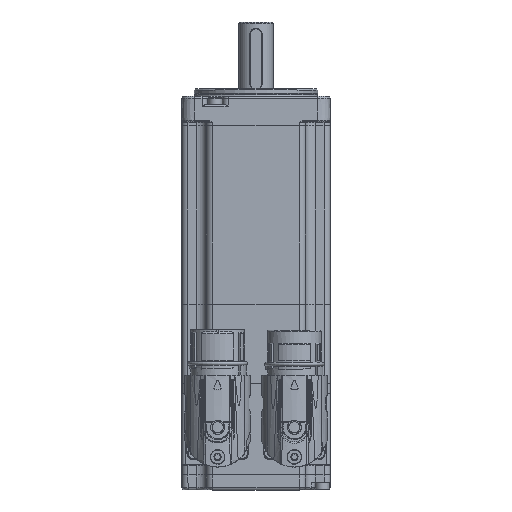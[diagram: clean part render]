
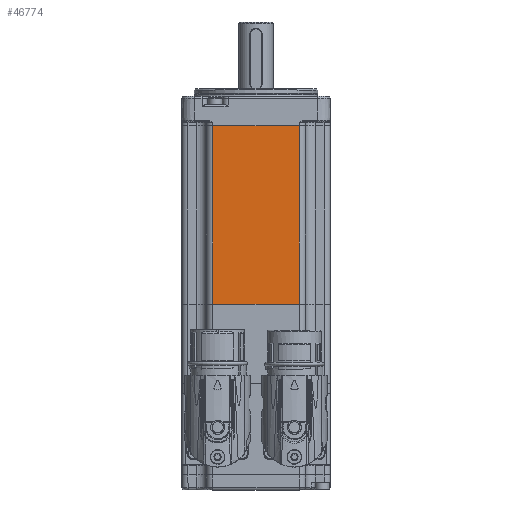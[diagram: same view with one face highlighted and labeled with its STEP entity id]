
A CAD part, top view. The second image highlights one B-rep face of the part: STEP entity #46774.
In plain terms, the highlighted planar face has unit normal (0, 0, 1).
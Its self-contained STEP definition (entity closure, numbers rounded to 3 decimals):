
#17283=LINE('',#71432,#19497);
#17284=LINE('',#71435,#19498);
#17285=LINE('',#71437,#19499);
#17286=LINE('',#71439,#19500);
#19497=VECTOR('',#56224,1000.);
#19498=VECTOR('',#56225,1000.);
#19499=VECTOR('',#56226,1000.);
#19500=VECTOR('',#56227,1000.);
#25622=ORIENTED_EDGE('',*,*,#32521,.T.);
#25623=ORIENTED_EDGE('',*,*,#32522,.T.);
#25624=ORIENTED_EDGE('',*,*,#32523,.T.);
#25625=ORIENTED_EDGE('',*,*,#32524,.T.);
#32521=EDGE_CURVE('',#36425,#36426,#17283,.F.);
#32522=EDGE_CURVE('',#36426,#36427,#17284,.T.);
#32523=EDGE_CURVE('',#36427,#36428,#17285,.T.);
#32524=EDGE_CURVE('',#36428,#36425,#17286,.T.);
#36425=VERTEX_POINT('',#71433);
#36426=VERTEX_POINT('',#71434);
#36427=VERTEX_POINT('',#71436);
#36428=VERTEX_POINT('',#71438);
#40754=EDGE_LOOP('',(#25622,#25623,#25624,#25625));
#43465=FACE_BOUND('',#40754,.T.);
#45321=PLANE('',#49538);
#46774=ADVANCED_FACE('',(#43465),#45321,.T.);
#49538=AXIS2_PLACEMENT_3D('',#71431,#56222,#56223);
#56222=DIRECTION('',(0.,0.,1.));
#56223=DIRECTION('',(0.,-1.,0.));
#56224=DIRECTION('',(-1.,0.,0.));
#56225=DIRECTION('',(0.,1.,0.));
#56226=DIRECTION('',(-1.,0.,0.));
#56227=DIRECTION('',(0.,-1.,0.));
#71431=CARTESIAN_POINT('',(-200.,30.,30.));
#71432=CARTESIAN_POINT('',(0.,-17.5,30.));
#71433=CARTESIAN_POINT('',(-73.,-17.5,30.));
#71434=CARTESIAN_POINT('',(-1.,-17.5,30.));
#71435=CARTESIAN_POINT('',(-1.,30.,30.));
#71436=CARTESIAN_POINT('',(-1.,17.5,30.));
#71437=CARTESIAN_POINT('',(-200.,17.5,30.));
#71438=CARTESIAN_POINT('',(-73.,17.5,30.));
#71439=CARTESIAN_POINT('',(-73.,30.,30.));
